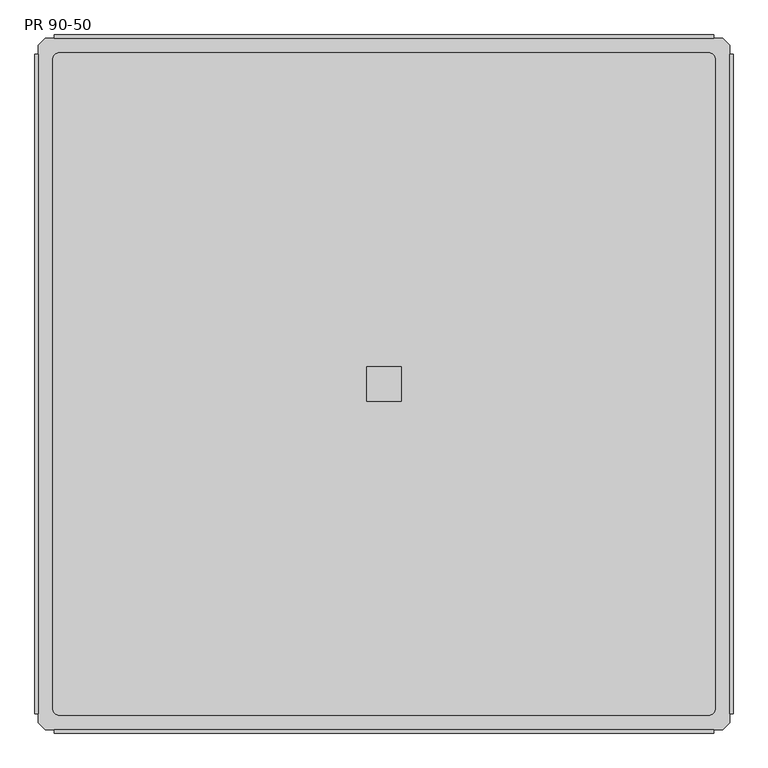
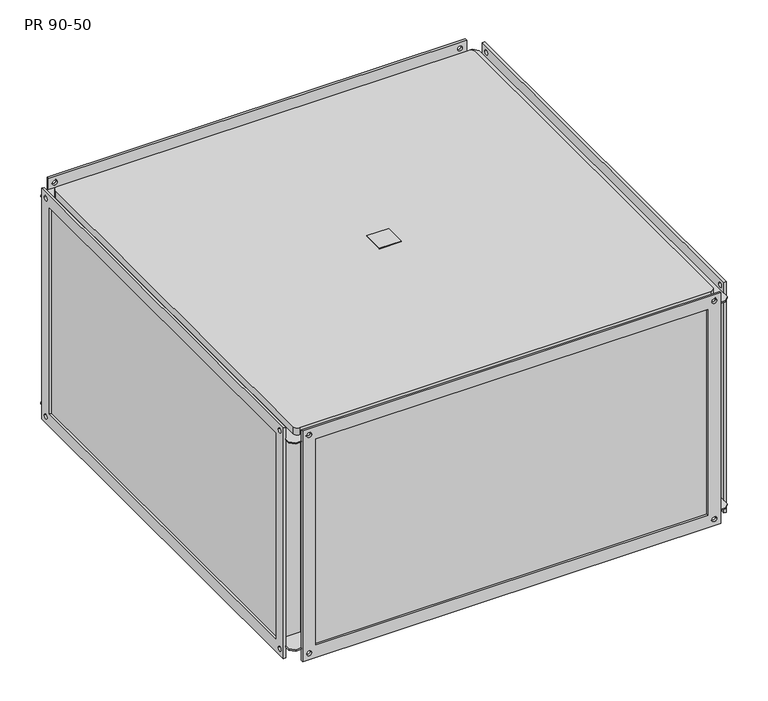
"""IFC4 building model written with IfcOpenShell, lengths in millimetres: proxy geometry, KORF_Рекуператор_Пластинчатый_PR : PR 90-50."""

from ifc_helpers import new_model, si_unit, point, frame, frame_2d, origin, place, context, project, spatial, polyline, circle_curve, trimmed, segment, composite_curve, outline, extrude, source, transform, mapped, element, save
from ifc_brep_helpers import plane_surface, cylinder_surface, revolved_surface, advanced_brep


def pr_90_50_53d76877(model_context):
    return source(origin(), model_context, "Body", "SolidModel", [
        extrude(outline(polyline([(483.0, -25.0), (483.0, 25.0), (533.0, 25.0), (533.0, -25.0), (483.0, -25.0)])), frame((0.0, 0.0, 270.0), z_axis=(0.0, 0.0, 1.0), x_axis=(1.0, 0.0, 0.0)), (0.0, 0.0, 1.0), 2.0),
        advanced_brep(
        [(958.0, -503.0, -250.0), (958.0, -503.0, 250.0), (58.0, -503.0, 250.0), (58.0, -503.0, -250.0), (958.0, 503.0, 250.0), (958.0, 503.0, -250.0), (58.0, 503.0, -250.0), (58.0, 503.0, 250.0), (15.0, 503.0, 253.0), (5.0, 493.0, 253.0), (5.0, -493.0, 253.0), (15.0, -503.0, 253.0), (28.0, -503.0, 253.0), (988.0, -503.0, 253.0), (1001.0, -503.0, 253.0), (1011.0, -493.0, 253.0), (1011.0, 493.0, 253.0), (1001.0, 503.0, 253.0), (988.0, 503.0, 253.0), (28.0, 503.0, 253.0), (36.0, 482.0, 253.0), (980.0, 482.0, 253.0), (990.0, 472.0, 253.0), (990.0, -472.0, 253.0), (980.0, -482.0, 253.0), (36.0, -482.0, 253.0), (26.0, -472.0, 253.0), (26.0, 472.0, 253.0), (55.0, -503.0, 250.0), (55.0, -453.0, 250.0), (55.0, -453.0, -250.0), (55.0, -503.0, -250.0), (55.0, 453.0, 250.0), (55.0, 503.0, 250.0), (55.0, 503.0, -250.0), (55.0, 453.0, -250.0), (5.0, 493.0, -253.0), (15.0, 503.0, -253.0), (28.0, 503.0, -253.0), (988.0, 503.0, -253.0), (1001.0, 503.0, -253.0), (1011.0, 493.0, -253.0), (1011.0, -493.0, -253.0), (1001.0, -503.0, -253.0), (988.0, -503.0, -253.0), (28.0, -503.0, -253.0), (15.0, -503.0, -253.0), (5.0, -493.0, -253.0), (961.0, -453.0, 250.0), (961.0, -503.0, 250.0), (961.0, -503.0, -250.0), (961.0, -453.0, -250.0), (961.0, 503.0, 250.0), (961.0, 453.0, 250.0), (961.0, 453.0, -250.0), (961.0, 503.0, -250.0), (1011.0, 453.0, 250.0), (1011.0, 493.0, 250.0), (1011.0, -493.0, 250.0), (1011.0, -453.0, 250.0), (1011.0, -453.0, -250.0), (1011.0, -493.0, -250.0), (1011.0, 493.0, -250.0), (1011.0, 453.0, -250.0), (5.0, 493.0, 250.0), (5.0, 453.0, 250.0), (5.0, 453.0, -250.0), (5.0, 493.0, -250.0), (5.0, -493.0, -250.0), (5.0, -453.0, -250.0), (5.0, -453.0, 250.0), (5.0, -493.0, 250.0), (988.0, 508.0, 280.0), (988.0, 508.0, -280.0), (28.0, 508.0, -280.0), (28.0, 508.0, 280.0), (958.0, 508.0, 250.0), (58.0, 508.0, 250.0), (58.0, 508.0, -250.0), (958.0, 508.0, -250.0), (37.5, 508.0, 265.0), (48.5, 508.0, 265.0), (967.5, 508.0, 265.0), (978.5, 508.0, 265.0), (967.5, 508.0, -265.0), (978.5, 508.0, -265.0), (37.5, 508.0, -265.0), (48.5, 508.0, -265.0), (988.0, 503.0, 280.0), (28.0, 503.0, 280.0), (37.5, 503.0, 265.0), (48.5, 503.0, 265.0), (967.5, 503.0, 265.0), (978.5, 503.0, 265.0), (28.0, 503.0, -280.0), (988.0, 503.0, -280.0), (967.5, 503.0, -265.0), (978.5, 503.0, -265.0), (37.5, 503.0, -265.0), (48.5, 503.0, -265.0), (28.0, 503.0, 250.0), (28.0, 503.0, -250.0), (988.0, 503.0, 250.0), (988.0, 503.0, -250.0), (988.0, -508.0, 280.0), (28.0, -508.0, 280.0), (28.0, -508.0, -280.0), (988.0, -508.0, -280.0), (958.0, -508.0, 250.0), (958.0, -508.0, -250.0), (58.0, -508.0, -250.0), (58.0, -508.0, 250.0), (967.5, -508.0, 265.0), (978.5, -508.0, 265.0), (967.5, -508.0, -265.0), (978.5, -508.0, -265.0), (37.5, -508.0, 265.0), (48.5, -508.0, 265.0), (37.5, -508.0, -265.0), (48.5, -508.0, -265.0), (988.0, -503.0, -280.0), (28.0, -503.0, -280.0), (967.5, -503.0, -265.0), (978.5, -503.0, -265.0), (37.5, -503.0, -265.0), (48.5, -503.0, -265.0), (28.0, -503.0, 280.0), (988.0, -503.0, 280.0), (967.5, -503.0, 265.0), (978.5, -503.0, 265.0), (37.5, -503.0, 265.0), (48.5, -503.0, 265.0), (28.0, -503.0, 250.0), (28.0, -503.0, -250.0), (988.0, -503.0, 250.0), (988.0, -503.0, -250.0), (1001.0, -503.0, 250.0), (15.0, 503.0, 250.0), (1001.0, 503.0, 250.0), (15.0, -503.0, 250.0), (1001.0, 503.0, -250.0), (15.0, -503.0, -250.0), (15.0, 503.0, -250.0), (1001.0, -503.0, -250.0), (980.0, 482.0, 270.0), (36.0, 482.0, 270.0), (26.0, 472.0, 270.0), (26.0, -472.0, 270.0), (36.0, -482.0, 270.0), (980.0, -482.0, 270.0), (990.0, -472.0, 270.0), (990.0, 472.0, 270.0)],
        [
            (0, 1),
            (1, 2),
            (2, 3),
            (3, 0),
            (4, 5),
            (5, 6),
            (6, 7),
            (7, 4),
            (8, 9),
            (9, 10),
            (10, 11),
            (11, 12),
            (12, 13),
            (13, 14),
            (14, 15),
            (15, 16),
            (16, 17),
            (17, 18),
            (18, 19),
            (19, 8),
            (20, 21),
            (21, 22, circle_curve(frame((980.0, 472.0, 253.0), z_axis=(0.0, 0.0, -1.0), x_axis=(1.0, 0.0, 0.0)), 10.0)),
            (22, 23),
            (23, 24, circle_curve(frame((980.0, -472.0, 253.0), z_axis=(0.0, 0.0, -1.0), x_axis=(1.0, 0.0, 0.0)), 10.0)),
            (24, 25),
            (25, 26, circle_curve(frame((36.0, -472.0, 253.0), z_axis=(0.0, 0.0, -1.0), x_axis=(1.0, 0.0, 0.0)), 10.0)),
            (26, 27),
            (27, 20, circle_curve(frame((36.0, 472.0, 253.0), z_axis=(0.0, 0.0, -1.0), x_axis=(1.0, 0.0, 0.0)), 10.0)),
            (28, 29),
            (29, 30),
            (30, 31),
            (31, 28),
            (32, 33),
            (33, 34),
            (34, 35),
            (35, 32),
            (36, 37),
            (37, 38),
            (38, 39),
            (39, 40),
            (40, 41),
            (41, 42),
            (42, 43),
            (43, 44),
            (44, 45),
            (45, 46),
            (46, 47),
            (47, 36),
            (48, 49),
            (49, 50),
            (50, 51),
            (51, 48),
            (52, 53),
            (53, 54),
            (54, 55),
            (55, 52),
            (56, 57),
            (57, 16),
            (15, 58),
            (58, 59),
            (59, 60),
            (60, 61),
            (61, 42),
            (41, 62),
            (62, 63),
            (63, 56),
            (64, 65),
            (65, 66),
            (66, 67),
            (67, 36),
            (47, 68),
            (68, 69),
            (69, 70),
            (70, 71),
            (71, 10),
            (9, 64),
            (29, 70),
            (69, 30),
            (59, 48),
            (51, 60),
            (65, 32),
            (35, 66),
            (53, 56),
            (63, 54),
            (72, 73),
            (73, 74),
            (74, 75),
            (75, 72),
            (76, 77),
            (77, 78),
            (78, 79),
            (79, 76),
            (80, 81, circle_curve(frame((43.0, 508.0, 265.0), z_axis=(0.0, -1.0, 0.0), x_axis=(1.0, 0.0, 0.0)), 5.5)),
            (81, 80, circle_curve(frame((43.0, 508.0, 265.0), z_axis=(0.0, -1.0, 0.0), x_axis=(1.0, 0.0, 0.0)), 5.5)),
            (82, 83, circle_curve(frame((973.0, 508.0, 265.0), z_axis=(0.0, -1.0, 0.0), x_axis=(1.0, 0.0, 0.0)), 5.5)),
            (83, 82, circle_curve(frame((973.0, 508.0, 265.0), z_axis=(0.0, -1.0, 0.0), x_axis=(1.0, 0.0, 0.0)), 5.5)),
            (84, 85, circle_curve(frame((973.0, 508.0, -265.0), z_axis=(0.0, -1.0, 0.0), x_axis=(1.0, 0.0, 0.0)), 5.5)),
            (85, 84, circle_curve(frame((973.0, 508.0, -265.0), z_axis=(0.0, -1.0, 0.0), x_axis=(1.0, 0.0, 0.0)), 5.5)),
            (86, 87, circle_curve(frame((43.0, 508.0, -265.0), z_axis=(0.0, -1.0, 0.0), x_axis=(1.0, 0.0, 0.0)), 5.5)),
            (87, 86, circle_curve(frame((43.0, 508.0, -265.0), z_axis=(0.0, -1.0, 0.0), x_axis=(1.0, 0.0, 0.0)), 5.5)),
            (88, 89),
            (89, 19),
            (18, 88),
            (90, 91, circle_curve(frame((43.0, 503.0, 265.0), z_axis=(0.0, 1.0, 0.0), x_axis=(1.0, 0.0, 0.0)), 5.5)),
            (91, 90, circle_curve(frame((43.0, 503.0, 265.0), z_axis=(0.0, 1.0, 0.0), x_axis=(1.0, 0.0, 0.0)), 5.5)),
            (92, 93, circle_curve(frame((973.0, 503.0, 265.0), z_axis=(0.0, 1.0, 0.0), x_axis=(1.0, 0.0, 0.0)), 5.5)),
            (93, 92, circle_curve(frame((973.0, 503.0, 265.0), z_axis=(0.0, 1.0, 0.0), x_axis=(1.0, 0.0, 0.0)), 5.5)),
            (94, 95),
            (95, 39),
            (38, 94),
            (96, 97, circle_curve(frame((973.0, 503.0, -265.0), z_axis=(0.0, 1.0, 0.0), x_axis=(1.0, 0.0, 0.0)), 5.5)),
            (97, 96, circle_curve(frame((973.0, 503.0, -265.0), z_axis=(0.0, 1.0, 0.0), x_axis=(1.0, 0.0, 0.0)), 5.5)),
            (98, 99, circle_curve(frame((43.0, 503.0, -265.0), z_axis=(0.0, 1.0, 0.0), x_axis=(1.0, 0.0, 0.0)), 5.5)),
            (99, 98, circle_curve(frame((43.0, 503.0, -265.0), z_axis=(0.0, 1.0, 0.0), x_axis=(1.0, 0.0, 0.0)), 5.5)),
            (33, 100),
            (100, 101),
            (101, 34),
            (102, 52),
            (55, 103),
            (103, 102),
            (75, 89),
            (88, 72),
            (74, 94),
            (38, 101),
            (100, 19),
            (73, 95),
            (18, 102),
            (103, 39),
            (79, 5),
            (4, 76),
            (78, 6),
            (77, 7),
            (104, 105),
            (105, 106),
            (106, 107),
            (107, 104),
            (108, 109),
            (109, 110),
            (110, 111),
            (111, 108),
            (112, 113, circle_curve(frame((973.0, -508.0, 265.0), z_axis=(0.0, 1.0, 0.0), x_axis=(1.0, 0.0, 0.0)), 5.5)),
            (113, 112, circle_curve(frame((973.0, -508.0, 265.0), z_axis=(0.0, 1.0, 0.0), x_axis=(1.0, 0.0, 0.0)), 5.5)),
            (114, 115, circle_curve(frame((973.0, -508.0, -265.0), z_axis=(0.0, 1.0, 0.0), x_axis=(1.0, 0.0, 0.0)), 5.5)),
            (115, 114, circle_curve(frame((973.0, -508.0, -265.0), z_axis=(0.0, 1.0, 0.0), x_axis=(1.0, 0.0, 0.0)), 5.5)),
            (116, 117, circle_curve(frame((43.0, -508.0, 265.0), z_axis=(0.0, 1.0, 0.0), x_axis=(1.0, 0.0, 0.0)), 5.5)),
            (117, 116, circle_curve(frame((43.0, -508.0, 265.0), z_axis=(0.0, 1.0, 0.0), x_axis=(1.0, 0.0, 0.0)), 5.5)),
            (118, 119, circle_curve(frame((43.0, -508.0, -265.0), z_axis=(0.0, 1.0, 0.0), x_axis=(1.0, 0.0, 0.0)), 5.5)),
            (119, 118, circle_curve(frame((43.0, -508.0, -265.0), z_axis=(0.0, 1.0, 0.0), x_axis=(1.0, 0.0, 0.0)), 5.5)),
            (120, 121),
            (121, 45),
            (44, 120),
            (122, 123, circle_curve(frame((973.0, -503.0, -265.0), z_axis=(0.0, -1.0, 0.0), x_axis=(1.0, 0.0, 0.0)), 5.5)),
            (123, 122, circle_curve(frame((973.0, -503.0, -265.0), z_axis=(0.0, -1.0, 0.0), x_axis=(1.0, 0.0, 0.0)), 5.5)),
            (124, 125, circle_curve(frame((43.0, -503.0, -265.0), z_axis=(0.0, -1.0, 0.0), x_axis=(1.0, 0.0, 0.0)), 5.5)),
            (125, 124, circle_curve(frame((43.0, -503.0, -265.0), z_axis=(0.0, -1.0, 0.0), x_axis=(1.0, 0.0, 0.0)), 5.5)),
            (126, 127),
            (127, 13),
            (12, 126),
            (128, 129, circle_curve(frame((973.0, -503.0, 265.0), z_axis=(0.0, -1.0, 0.0), x_axis=(1.0, 0.0, 0.0)), 5.5)),
            (129, 128, circle_curve(frame((973.0, -503.0, 265.0), z_axis=(0.0, -1.0, 0.0), x_axis=(1.0, 0.0, 0.0)), 5.5)),
            (130, 131, circle_curve(frame((43.0, -503.0, 265.0), z_axis=(0.0, -1.0, 0.0), x_axis=(1.0, 0.0, 0.0)), 5.5)),
            (131, 130, circle_curve(frame((43.0, -503.0, 265.0), z_axis=(0.0, -1.0, 0.0), x_axis=(1.0, 0.0, 0.0)), 5.5)),
            (132, 28),
            (31, 133),
            (133, 132),
            (49, 134),
            (134, 135),
            (135, 50),
            (104, 127),
            (126, 105),
            (12, 132),
            (133, 45),
            (121, 106),
            (120, 107),
            (44, 135),
            (134, 13),
            (108, 1),
            (0, 109),
            (3, 110),
            (2, 111),
            (81, 91),
            (90, 80),
            (83, 93),
            (92, 82),
            (85, 97),
            (96, 84),
            (87, 99),
            (98, 86),
            (112, 128),
            (129, 113),
            (114, 122),
            (123, 115),
            (116, 130),
            (131, 117),
            (118, 124),
            (125, 119),
            (58, 136),
            (136, 134),
            (64, 137),
            (137, 100),
            (138, 57),
            (102, 138),
            (139, 71),
            (132, 139),
            (137, 8),
            (138, 17),
            (139, 11),
            (136, 14),
            (62, 140),
            (140, 103),
            (68, 141),
            (141, 133),
            (142, 67),
            (101, 142),
            (143, 61),
            (135, 143),
            (37, 142),
            (40, 140),
            (46, 141),
            (43, 143),
            (144, 145),
            (145, 146, circle_curve(frame((36.0, 472.0, 270.0), z_axis=(0.0, 0.0, 1.0), x_axis=(1.0, 0.0, 0.0)), 10.0)),
            (146, 147),
            (147, 148, circle_curve(frame((36.0, -472.0, 270.0), z_axis=(0.0, 0.0, 1.0), x_axis=(1.0, 0.0, 0.0)), 10.0)),
            (148, 149),
            (149, 150, circle_curve(frame((980.0, -472.0, 270.0), z_axis=(0.0, 0.0, 1.0), x_axis=(1.0, 0.0, 0.0)), 10.0)),
            (150, 151),
            (151, 144, circle_curve(frame((980.0, 472.0, 270.0), z_axis=(0.0, 0.0, 1.0), x_axis=(1.0, 0.0, 0.0)), 10.0)),
            (144, 21),
            (20, 145),
            (27, 146),
            (26, 147),
            (25, 148),
            (24, 149),
            (23, 150),
            (22, 151),
        ],
        [
            plane_surface(frame((55.0, -503.0, 253.0), z_axis=(0.0, -1.0, 0.0), x_axis=(-1.0, 0.0, 0.0))),
            plane_surface(frame((55.0, 503.0, 253.0), z_axis=(0.0, 1.0, 0.0), x_axis=(1.0, 0.0, 0.0))),
            plane_surface(frame((961.0, -503.0, 253.0), z_axis=(0.0, 0.0, 1.0), x_axis=(0.0, 1.0, 0.0))),
            plane_surface(frame((55.0, -503.0, 253.0), z_axis=(-1.0, 0.0, 0.0), x_axis=(0.0, 1.0, 0.0))),
            plane_surface(frame((55.0, -503.0, -253.0), z_axis=(0.0, 0.0, -1.0), x_axis=(0.0, 1.0, 0.0))),
            plane_surface(frame((961.0, -503.0, -253.0), z_axis=(1.0, 0.0, 0.0), x_axis=(0.0, 1.0, 0.0))),
            plane_surface(frame((1011.0, -453.0, 253.0), z_axis=(1.0, 0.0, 0.0), x_axis=(0.0, 0.0, -1.0))),
            plane_surface(frame((5.0, -453.0, 253.0), z_axis=(-1.0, 0.0, 0.0), x_axis=(0.0, 0.0, 1.0))),
            plane_surface(frame((1011.0, -453.0, 253.0), z_axis=(0.0, -1.0, 0.0), x_axis=(-1.0, 0.0, 0.0))),
            plane_surface(frame((1011.0, 453.0, -253.0), z_axis=(0.0, 1.0, 0.0), x_axis=(-1.0, 0.0, 0.0))),
            plane_surface(frame((28.0, 508.0, 280.0), z_axis=(0.0, 1.0, 0.0), x_axis=(1.0, 0.0, 0.0))),
            plane_surface(frame((28.0, 503.0, 280.0), z_axis=(0.0, -1.0, 0.0), x_axis=(-1.0, 0.0, 0.0))),
            plane_surface(frame((988.0, 503.0, 280.0), z_axis=(0.0, 0.0, 1.0), x_axis=(0.0, 1.0, 0.0))),
            plane_surface(frame((28.0, 503.0, 280.0), z_axis=(-1.0, 0.0, 0.0), x_axis=(0.0, 1.0, 0.0))),
            plane_surface(frame((28.0, 503.0, -280.0), z_axis=(0.0, 0.0, -1.0), x_axis=(0.0, 1.0, 0.0))),
            plane_surface(frame((988.0, 503.0, -280.0), z_axis=(1.0, 0.0, 0.0), x_axis=(0.0, 1.0, 0.0))),
            plane_surface(frame((958.0, 503.0, 250.0), z_axis=(-1.0, 0.0, 0.0), x_axis=(0.0, 1.0, 0.0))),
            plane_surface(frame((958.0, 503.0, -250.0), z_axis=(0.0, 0.0, 1.0), x_axis=(0.0, 1.0, 0.0))),
            plane_surface(frame((58.0, 503.0, -250.0), z_axis=(1.0, 0.0, 0.0), x_axis=(0.0, 1.0, 0.0))),
            plane_surface(frame((58.0, 503.0, 250.0), z_axis=(0.0, 0.0, -1.0), x_axis=(0.0, 1.0, 0.0))),
            plane_surface(frame((28.0, -508.0, 280.0), z_axis=(0.0, -1.0, 0.0), x_axis=(-1.0, 0.0, 0.0))),
            plane_surface(frame((28.0, -503.0, 280.0), z_axis=(0.0, 1.0, 0.0), x_axis=(1.0, 0.0, 0.0))),
            plane_surface(frame((988.0, -508.0, 280.0), z_axis=(0.0, 0.0, 1.0), x_axis=(0.0, 1.0, 0.0))),
            plane_surface(frame((28.0, -508.0, 280.0), z_axis=(-1.0, 0.0, 0.0), x_axis=(0.0, 1.0, 0.0))),
            plane_surface(frame((28.0, -508.0, -280.0), z_axis=(0.0, 0.0, -1.0), x_axis=(0.0, 1.0, 0.0))),
            plane_surface(frame((988.0, -508.0, -280.0), z_axis=(1.0, 0.0, 0.0), x_axis=(0.0, 1.0, 0.0))),
            plane_surface(frame((958.0, -508.0, 250.0), z_axis=(-1.0, 0.0, 0.0), x_axis=(0.0, 1.0, 0.0))),
            plane_surface(frame((958.0, -508.0, -250.0), z_axis=(0.0, 0.0, 1.0), x_axis=(0.0, 1.0, 0.0))),
            plane_surface(frame((58.0, -508.0, -250.0), z_axis=(1.0, 0.0, 0.0), x_axis=(0.0, 1.0, 0.0))),
            plane_surface(frame((58.0, -508.0, 250.0), z_axis=(0.0, 0.0, -1.0), x_axis=(0.0, 1.0, 0.0))),
            revolved_surface(polyline([(48.5, 508.0, 265.0), (48.5, 503.0, 265.0)]), (43.0, 0.0, 265.0), (0.0, 1.0, 0.0)),
            revolved_surface(polyline([(978.5, 508.0, 265.0), (978.5, 503.0, 265.0)]), (973.0, 0.0, 265.0), (0.0, 1.0, 0.0)),
            revolved_surface(polyline([(978.5, 508.0, -265.0), (978.5, 503.0, -265.0)]), (973.0, 0.0, -265.0), (0.0, 1.0, 0.0)),
            revolved_surface(polyline([(48.5, 508.0, -265.0), (48.5, 503.0, -265.0)]), (43.0, 0.0, -265.0), (0.0, 1.0, 0.0)),
            revolved_surface(polyline([(978.5, -503.0, 265.0), (978.5, -508.0, 265.0)]), (973.0, 0.0, 265.0), (0.0, 1.0, 0.0)),
            revolved_surface(polyline([(978.5, -503.0, -265.0), (978.5, -508.0, -265.0)]), (973.0, 0.0, -265.0), (0.0, 1.0, 0.0)),
            revolved_surface(polyline([(48.5, -503.0, 265.0), (48.5, -508.0, 265.0)]), (43.0, 0.0, 265.0), (0.0, 1.0, 0.0)),
            revolved_surface(polyline([(48.5, -503.0, -265.0), (48.5, -508.0, -265.0)]), (43.0, 0.0, -265.0), (0.0, 1.0, 0.0)),
            plane_surface(frame((55.0, 453.0, 250.0), z_axis=(0.0, 0.0, -1.0), x_axis=(0.0, -1.0, 0.0))),
            plane_surface(frame((55.0, 503.0, 253.0), z_axis=(0.0, 1.0, 0.0), x_axis=(0.0, 0.0, -1.0))),
            plane_surface(frame((15.0, 503.0, 253.0), z_axis=(-0.7071067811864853, 0.7071067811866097, 0.0), x_axis=(0.0, 0.0, -1.0))),
            plane_surface(frame((1011.0, 493.0, 253.0), z_axis=(0.707106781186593, 0.707106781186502, 0.0), x_axis=(0.0, 0.0, -1.0))),
            plane_surface(frame((1001.0, 503.0, 253.0), z_axis=(0.0, 1.0, 0.0), x_axis=(0.0, 0.0, -1.0))),
            plane_surface(frame((5.0, -493.0, 253.0), z_axis=(-0.7071067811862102, -0.7071067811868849, 0.0), x_axis=(0.0, 0.0, -1.0))),
            plane_surface(frame((15.0, -503.0, 253.0), z_axis=(0.0, -1.0, 0.0), x_axis=(0.0, 0.0, -1.0))),
            plane_surface(frame((961.0, -503.0, 253.0), z_axis=(0.0, -1.0, 0.0), x_axis=(0.0, 0.0, -1.0))),
            plane_surface(frame((1001.0, -503.0, 253.0), z_axis=(0.7071067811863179, -0.7071067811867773, 0.0), x_axis=(0.0, 0.0, -1.0))),
            plane_surface(frame((55.0, 453.0, -250.0), z_axis=(0.0, 0.0, 1.0), x_axis=(0.0, 1.0, 0.0))),
            plane_surface(frame((55.0, 503.0, -250.0), z_axis=(0.0, 1.0, 0.0), x_axis=(0.0, 0.0, -1.0))),
            plane_surface(frame((15.0, 503.0, -250.0), z_axis=(-0.7071067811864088, 0.7071067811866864, 0.0), x_axis=(0.0, 0.0, -1.0))),
            plane_surface(frame((1011.0, 493.0, -250.0), z_axis=(0.7071067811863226, 0.7071067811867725, 0.0), x_axis=(0.0, 0.0, -1.0))),
            plane_surface(frame((1001.0, 503.0, -250.0), z_axis=(0.0, 1.0, 0.0), x_axis=(0.0, 0.0, -1.0))),
            plane_surface(frame((5.0, -493.0, -250.0), z_axis=(-0.7071067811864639, -0.7071067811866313, 0.0), x_axis=(0.0, 0.0, -1.0))),
            plane_surface(frame((15.0, -503.0, -250.0), z_axis=(0.0, -1.0, 0.0), x_axis=(0.0, 0.0, -1.0))),
            plane_surface(frame((961.0, -503.0, -250.0), z_axis=(0.0, -1.0, 0.0), x_axis=(0.0, 0.0, -1.0))),
            plane_surface(frame((1001.0, -503.0, -250.0), z_axis=(0.7071067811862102, -0.707106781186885, 0.0), x_axis=(0.0, 0.0, -1.0))),
            plane_surface(frame((36.0, 482.0, 270.0), z_axis=(0.0, 0.0, 1.0), x_axis=(-1.0, 0.0, 0.0))),
            plane_surface(frame((980.0, 482.0, 270.0), z_axis=(0.0, 1.0, 0.0), x_axis=(0.0, 0.0, -1.0))),
            cylinder_surface(frame((36.0, 472.0, 253.0), z_axis=(0.0, 0.0, 1.0), x_axis=(1.0, 0.0, 0.0)), 10.0),
            plane_surface(frame((26.0, 472.0, 270.0), z_axis=(-1.0, 0.0, 0.0), x_axis=(0.0, 0.0, -1.0))),
            cylinder_surface(frame((36.0, -472.0, 253.0), z_axis=(0.0, 0.0, 1.0), x_axis=(1.0, 0.0, 0.0)), 10.0),
            plane_surface(frame((36.0, -482.0, 270.0), z_axis=(0.0, -1.0, 0.0), x_axis=(0.0, 0.0, -1.0))),
            cylinder_surface(frame((980.0, -472.0, 253.0), z_axis=(0.0, 0.0, 1.0), x_axis=(1.0, 0.0, 0.0)), 10.0),
            plane_surface(frame((990.0, -472.0, 270.0), z_axis=(1.0, 0.0, 0.0), x_axis=(0.0, 0.0, -1.0))),
            cylinder_surface(frame((980.0, 472.0, 253.0), z_axis=(0.0, 0.0, 1.0), x_axis=(1.0, 0.0, 0.0)), 10.0),
        ],
        [
            (0, [[1, 2, 3, 4]]),
            (1, [[5, 6, 7, 8]]),
            (2, [[9, 10, 11, 12, 13, 14, 15, 16, 17, 18, 19, 20], [21, 22, 23, 24, 25, 26, 27, 28]]),
            (3, [[29, 30, 31, 32]]),
            (3, [[33, 34, 35, 36]]),
            (4, [[37, 38, 39, 40, 41, 42, 43, 44, 45, 46, 47, 48]]),
            (5, [[49, 50, 51, 52]]),
            (5, [[53, 54, 55, 56]]),
            (6, [[57, 58, -16, 59, 60, 61, 62, 63, -42, 64, 65, 66]]),
            (7, [[67, 68, 69, 70, -48, 71, 72, 73, 74, 75, -10, 76]]),
            (8, [[77, -73, 78, -30]]),
            (8, [[79, -52, 80, -61]]),
            (9, [[81, -36, 82, -68]]),
            (9, [[83, -66, 84, -54]]),
            (10, [[85, 86, 87, 88], [89, 90, 91, 92], [93, 94], [95, 96], [97, 98], [99, 100]]),
            (11, [[101, 102, -19, 103], [104, 105], [106, 107]]),
            (11, [[108, 109, -39, 110], [111, 112], [113, 114]]),
            (11, [[115, 116, 117, -34]]),
            (11, [[118, -56, 119, 120]]),
            (12, [[-88, 121, -101, 122]]),
            (13, [[-87, 123, -110, 124, -116, 125, -102, -121]]),
            (14, [[-86, 126, -108, -123]]),
            (15, [[-85, -122, -103, 127, -120, 128, -109, -126]]),
            (16, [[-92, 129, -5, 130]]),
            (17, [[-91, 131, -6, -129]]),
            (18, [[-90, 132, -7, -131]]),
            (19, [[-89, -130, -8, -132]]),
            (20, [[133, 134, 135, 136], [137, 138, 139, 140], [141, 142], [143, 144], [145, 146], [147, 148]]),
            (21, [[149, 150, -45, 151], [152, 153], [154, 155]]),
            (21, [[156, 157, -13, 158], [159, 160], [161, 162]]),
            (21, [[163, -32, 164, 165]]),
            (21, [[166, 167, 168, -50]]),
            (22, [[-133, 169, -156, 170]]),
            (23, [[-134, -170, -158, 171, -165, 172, -150, 173]]),
            (24, [[-135, -173, -149, 174]]),
            (25, [[-136, -174, -151, 175, -167, 176, -157, -169]]),
            (26, [[-137, 177, -1, 178]]),
            (27, [[-138, -178, -4, 179]]),
            (28, [[-139, -179, -3, 180]]),
            (29, [[-140, -180, -2, -177]]),
            (30, [[-94, 181, -104, 182]]),
            (30, [[-93, -182, -105, -181]]),
            (31, [[-96, 183, -106, 184]]),
            (31, [[-95, -184, -107, -183]]),
            (32, [[-98, 185, -111, 186]]),
            (32, [[-97, -186, -112, -185]]),
            (33, [[-100, 187, -113, 188]]),
            (33, [[-99, -188, -114, -187]]),
            (34, [[-141, 189, -160, 190]]),
            (34, [[-142, -190, -159, -189]]),
            (35, [[-143, 191, -153, 192]]),
            (35, [[-144, -192, -152, -191]]),
            (36, [[-145, 193, -162, 194]]),
            (36, [[-146, -194, -161, -193]]),
            (37, [[-147, 195, -155, 196]]),
            (37, [[-148, -196, -154, -195]]),
            (38, [[-60, 197, 198, -166, -49, -79]]),
            (38, [[-67, 199, 200, -115, -33, -81]]),
            (38, [[201, -57, -83, -53, -118, 202]]),
            (38, [[203, -74, -77, -29, -163, 204]]),
            (39, [[205, -20, -125, -200]]),
            (40, [[-199, -76, -9, -205]]),
            (41, [[-201, 206, -17, -58]]),
            (42, [[-206, -202, -127, -18]]),
            (43, [[-203, 207, -11, -75]]),
            (44, [[-207, -204, -171, -12]]),
            (45, [[208, -14, -176, -198]]),
            (46, [[-197, -59, -15, -208]]),
            (47, [[-65, 209, 210, -119, -55, -84]]),
            (47, [[-72, 211, 212, -164, -31, -78]]),
            (47, [[213, -69, -82, -35, -117, 214]]),
            (47, [[215, -62, -80, -51, -168, 216]]),
            (48, [[217, -214, -124, -38]]),
            (49, [[-213, -217, -37, -70]]),
            (50, [[-209, -64, -41, 218]]),
            (51, [[-218, -40, -128, -210]]),
            (52, [[-211, -71, -47, 219]]),
            (53, [[-219, -46, -172, -212]]),
            (54, [[220, -216, -175, -44]]),
            (55, [[-215, -220, -43, -63]]),
            (56, [[221, 222, 223, 224, 225, 226, 227, 228]]),
            (57, [[-221, 229, -21, 230]]),
            (58, [[-222, -230, -28, 231]]),
            (59, [[-223, -231, -27, 232]]),
            (60, [[-224, -232, -26, 233]]),
            (61, [[-225, -233, -25, 234]]),
            (62, [[-226, -234, -24, 235]]),
            (63, [[-227, -235, -23, 236]]),
            (64, [[-228, -236, -22, -229]]),
        ],
    ),
        extrude(outline(polyline([(-480.0, 280.0), (480.0, 280.0), (480.0, -280.0), (-480.0, -280.0), (-480.0, 280.0)]), holes=[polyline([(-450.0, 250.0), (-450.0, -250.0), (450.0, -250.0), (450.0, 250.0), (-450.0, 250.0)]), composite_curve([segment(trimmed(circle_curve(frame_2d((465.0, 265.0)), 5.5), [point((459.5, 265.0))], [point((470.5, 265.0))], True, "CARTESIAN"), True, "CONTINUOUS"), segment(trimmed(circle_curve(frame_2d((465.0, 265.0)), 5.5), [point((470.5, 265.0))], [point((459.5, 265.0))], True, "CARTESIAN"), True, "CONTINUOUS")], self_intersect=False), composite_curve([segment(trimmed(circle_curve(frame_2d((-465.0, 265.0)), 5.5), [point((-470.5, 265.0))], [point((-459.5, 265.0))], True, "CARTESIAN"), True, "CONTINUOUS"), segment(trimmed(circle_curve(frame_2d((-465.0, 265.0)), 5.5), [point((-459.5, 265.0))], [point((-470.5, 265.0))], True, "CARTESIAN"), True, "CONTINUOUS")], self_intersect=False), composite_curve([segment(trimmed(circle_curve(frame_2d((-465.0, -265.0)), 5.5), [point((-470.5, -265.0))], [point((-459.5, -265.0))], True, "CARTESIAN"), True, "CONTINUOUS"), segment(trimmed(circle_curve(frame_2d((-465.0, -265.0)), 5.5), [point((-459.5, -265.0))], [point((-470.5, -265.0))], True, "CARTESIAN"), True, "CONTINUOUS")], self_intersect=False), composite_curve([segment(trimmed(circle_curve(frame_2d((465.0, -265.0)), 5.5), [point((459.5, -265.0))], [point((470.5, -265.0))], True, "CARTESIAN"), True, "CONTINUOUS"), segment(trimmed(circle_curve(frame_2d((465.0, -265.0)), 5.5), [point((470.5, -265.0))], [point((459.5, -265.0))], True, "CARTESIAN"), True, "CONTINUOUS")], self_intersect=False)]), frame((1011.0, 0.0, 0.0), z_axis=(1.0, 0.0, 0.0), x_axis=(0.0, 1.0, 0.0)), (0.0, 0.0, 1.0), 5.0),
        advanced_brep(
        [(0.0, -480.0, 280.0), (0.0, 480.0, 280.0), (0.0, 480.0, -280.0), (0.0, -480.0, -280.0), (0.0, -450.0, 250.0), (0.0, -450.0, -250.0), (0.0, 450.0, -250.0), (0.0, 450.0, 250.0), (0.0, 459.5, 265.0), (0.0, 470.5, 265.0), (0.0, -470.5, 265.0), (0.0, -459.5, 265.0), (0.0, -470.5, -265.0), (0.0, -459.5, -265.0), (0.0, 459.5, -265.0), (0.0, 470.5, -265.0), (5.0, -480.0, 280.0), (5.0, -480.0, -280.0), (5.0, 480.0, -280.0), (5.0, 480.0, 280.0), (5.0, 470.5, 265.0), (5.0, 459.5, 265.0), (5.0, -459.5, 265.0), (5.0, -470.5, 265.0), (5.0, -459.5, -265.0), (5.0, -470.5, -265.0), (5.0, 470.5, -265.0), (5.0, 459.5, -265.0), (5.0, -450.0, -250.0), (5.0, -450.0, 250.0), (5.0, 450.0, 250.0), (5.0, 450.0, -250.0), (5.0, 450.0, 250.0), (5.0, -450.0, 250.0), (5.0, 450.0, -250.0), (5.0, -450.0, -250.0), (1011.0, -450.0, 250.0), (1011.0, -450.0, -250.0), (1011.0, 450.0, 250.0), (1011.0, 450.0, -250.0)],
        [
            (0, 1),
            (1, 2),
            (2, 3),
            (3, 0),
            (4, 5),
            (5, 6),
            (6, 7),
            (7, 4),
            (8, 9, circle_curve(frame((0.0, 465.0, 265.0), z_axis=(1.0, 0.0, 0.0), x_axis=(0.0, 1.0, 0.0)), 5.5)),
            (9, 8, circle_curve(frame((0.0, 465.0, 265.0), z_axis=(1.0, 0.0, 0.0), x_axis=(0.0, 1.0, 0.0)), 5.5)),
            (10, 11, circle_curve(frame((0.0, -465.0, 265.0), z_axis=(1.0, 0.0, 0.0), x_axis=(0.0, 1.0, 0.0)), 5.5)),
            (11, 10, circle_curve(frame((0.0, -465.0, 265.0), z_axis=(1.0, 0.0, 0.0), x_axis=(0.0, 1.0, 0.0)), 5.5)),
            (12, 13, circle_curve(frame((0.0, -465.0, -265.0), z_axis=(1.0, 0.0, 0.0), x_axis=(0.0, 1.0, 0.0)), 5.5)),
            (13, 12, circle_curve(frame((0.0, -465.0, -265.0), z_axis=(1.0, 0.0, 0.0), x_axis=(0.0, 1.0, 0.0)), 5.5)),
            (14, 15, circle_curve(frame((0.0, 465.0, -265.0), z_axis=(1.0, 0.0, 0.0), x_axis=(0.0, 1.0, 0.0)), 5.5)),
            (15, 14, circle_curve(frame((0.0, 465.0, -265.0), z_axis=(1.0, 0.0, 0.0), x_axis=(0.0, 1.0, 0.0)), 5.5)),
            (16, 17),
            (17, 18),
            (18, 19),
            (19, 16),
            (20, 21, circle_curve(frame((5.0, 465.0, 265.0), z_axis=(-1.0, 0.0, 0.0), x_axis=(0.0, 1.0, 0.0)), 5.5)),
            (21, 20, circle_curve(frame((5.0, 465.0, 265.0), z_axis=(-1.0, 0.0, 0.0), x_axis=(0.0, 1.0, 0.0)), 5.5)),
            (22, 23, circle_curve(frame((5.0, -465.0, 265.0), z_axis=(-1.0, 0.0, 0.0), x_axis=(0.0, 1.0, 0.0)), 5.5)),
            (23, 22, circle_curve(frame((5.0, -465.0, 265.0), z_axis=(-1.0, 0.0, 0.0), x_axis=(0.0, 1.0, 0.0)), 5.5)),
            (24, 25, circle_curve(frame((5.0, -465.0, -265.0), z_axis=(-1.0, 0.0, 0.0), x_axis=(0.0, 1.0, 0.0)), 5.5)),
            (25, 24, circle_curve(frame((5.0, -465.0, -265.0), z_axis=(-1.0, 0.0, 0.0), x_axis=(0.0, 1.0, 0.0)), 5.5)),
            (26, 27, circle_curve(frame((5.0, 465.0, -265.0), z_axis=(-1.0, 0.0, 0.0), x_axis=(0.0, 1.0, 0.0)), 5.5)),
            (27, 26, circle_curve(frame((5.0, 465.0, -265.0), z_axis=(-1.0, 0.0, 0.0), x_axis=(0.0, 1.0, 0.0)), 5.5)),
            (28, 29),
            (29, 30),
            (30, 31),
            (31, 28),
            (3, 17),
            (16, 0),
            (2, 18),
            (1, 19),
            (7, 32),
            (32, 33),
            (33, 4),
            (6, 34),
            (34, 32),
            (5, 35),
            (35, 34),
            (33, 35),
            (20, 9),
            (8, 21),
            (22, 11),
            (10, 23),
            (24, 13),
            (12, 25),
            (26, 15),
            (14, 27),
            (36, 29),
            (28, 37),
            (37, 36),
            (38, 39),
            (39, 31),
            (30, 38),
            (36, 38),
            (39, 37),
        ],
        [
            plane_surface(frame((0.0, -480.0, 280.0), z_axis=(-1.0, 0.0, 0.0), x_axis=(0.0, 0.0, 1.0))),
            plane_surface(frame((5.0, -480.0, 280.0), z_axis=(1.0, 0.0, 0.0), x_axis=(0.0, 0.0, -1.0))),
            plane_surface(frame((5.0, -480.0, 280.0), z_axis=(0.0, -1.0, 0.0), x_axis=(-1.0, 0.0, 0.0))),
            plane_surface(frame((5.0, -480.0, -280.0), z_axis=(0.0, 0.0, -1.0), x_axis=(-1.0, 0.0, 0.0))),
            plane_surface(frame((5.0, 480.0, -280.0), z_axis=(0.0, 1.0, 0.0), x_axis=(-1.0, 0.0, 0.0))),
            plane_surface(frame((5.0, 480.0, 280.0), z_axis=(0.0, 0.0, 1.0), x_axis=(-1.0, 0.0, 0.0))),
            plane_surface(frame((5.0, -450.0, 250.0), z_axis=(0.0, 0.0, -1.0), x_axis=(-1.0, 0.0, 0.0))),
            plane_surface(frame((5.0, 450.0, 250.0), z_axis=(0.0, -1.0, 0.0), x_axis=(-1.0, 0.0, 0.0))),
            plane_surface(frame((5.0, 450.0, -250.0), z_axis=(0.0, 0.0, 1.0), x_axis=(-1.0, 0.0, 0.0))),
            plane_surface(frame((5.0, -450.0, -250.0), z_axis=(0.0, 1.0, 0.0), x_axis=(-1.0, 0.0, 0.0))),
            revolved_surface(polyline([(5.0, 470.5, 265.0), (0.0, 470.5, 265.0)]), (0.0, 465.0, 265.0), (1.0, 0.0, 0.0)),
            revolved_surface(polyline([(5.0, -459.5, 265.0), (0.0, -459.5, 265.0)]), (0.0, -465.0, 265.0), (1.0, 0.0, 0.0)),
            revolved_surface(polyline([(5.0, -459.5, -265.0), (0.0, -459.5, -265.0)]), (0.0, -465.0, -265.0), (1.0, 0.0, 0.0)),
            revolved_surface(polyline([(5.0, 470.5, -265.0), (0.0, 470.5, -265.0)]), (0.0, 465.0, -265.0), (1.0, 0.0, 0.0)),
            plane_surface(frame((5.0, -450.0, 250.0), z_axis=(0.0, -1.0, 0.0), x_axis=(-1.0, 0.0, 0.0))),
            plane_surface(frame((5.0, 450.0, 250.0), z_axis=(0.0, 1.0, 0.0), x_axis=(1.0, 0.0, 0.0))),
            plane_surface(frame((1011.0, -450.0, 250.0), z_axis=(0.0, 0.0, 1.0), x_axis=(0.0, 1.0, 0.0))),
            plane_surface(frame((5.0, -450.0, 250.0), z_axis=(-1.0, 0.0, 0.0), x_axis=(0.0, 1.0, 0.0))),
            plane_surface(frame((5.0, -450.0, -250.0), z_axis=(0.0, 0.0, -1.0), x_axis=(0.0, 1.0, 0.0))),
            plane_surface(frame((1011.0, -450.0, -250.0), z_axis=(1.0, 0.0, 0.0), x_axis=(0.0, 1.0, 0.0))),
        ],
        [
            (0, [[1, 2, 3, 4], [5, 6, 7, 8], [9, 10], [11, 12], [13, 14], [15, 16]]),
            (1, [[17, 18, 19, 20], [21, 22], [23, 24], [25, 26], [27, 28], [29, 30, 31, 32]]),
            (2, [[-4, 33, -17, 34]]),
            (3, [[-3, 35, -18, -33]]),
            (4, [[-2, 36, -19, -35]]),
            (5, [[-1, -34, -20, -36]]),
            (6, [[-8, 37, 38, 39]]),
            (7, [[-7, 40, 41, -37]]),
            (8, [[-6, 42, 43, -40]]),
            (9, [[-5, -39, 44, -42]]),
            (10, [[45, -9, 46, -21]]),
            (10, [[-45, -22, -46, -10]]),
            (11, [[47, -11, 48, -23]]),
            (11, [[-47, -24, -48, -12]]),
            (12, [[49, -13, 50, -25]]),
            (12, [[-49, -26, -50, -14]]),
            (13, [[51, -15, 52, -27]]),
            (13, [[-51, -28, -52, -16]]),
            (14, [[53, -29, 54, 55]]),
            (15, [[56, 57, -31, 58]]),
            (16, [[-53, 59, -58, -30]]),
            (17, [[-38, -41, -43, -44]]),
            (18, [[-54, -32, -57, 60]]),
            (19, [[-55, -60, -56, -59]]),
        ],
    ),
    ])


if __name__ == "__main__":
    model = new_model("IFC4")
    model_context = context("Model", 3, world=origin())
    ifc_project = project(units=[si_unit("LENGTHUNIT", "METRE", prefix="MILLI")], contexts=[model_context])
    site = spatial("IfcSite", under=ifc_project)
    building = spatial("IfcBuilding", under=site)
    placement = place(None, origin())
    pr_90_50_shape = pr_90_50_53d76877(model_context)
    element("IfcBuildingElementProxy", 1, Name="KORF_Рекуператор_Пластинчатый_PR : PR 90-50", ObjectType="KORF_Рекуператор_Пластинчатый_PR : PR 90-50", at=placement, inside=building, context=model_context, shape_type="MappedRepresentation", body=[
        mapped(pr_90_50_shape, transform((0.0, 0.0, 0.0), x_axis=(1.0, 0.0, 0.0), y_axis=(0.0, 1.0, 0.0), z_axis=(0.0, 0.0, 1.0))),
    ])
    save(model, "model.ifc")
